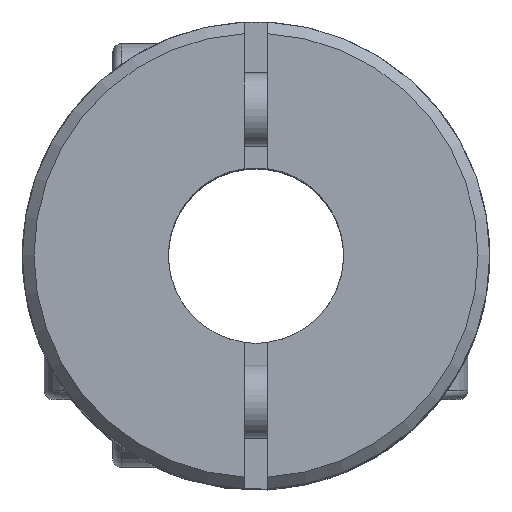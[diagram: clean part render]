
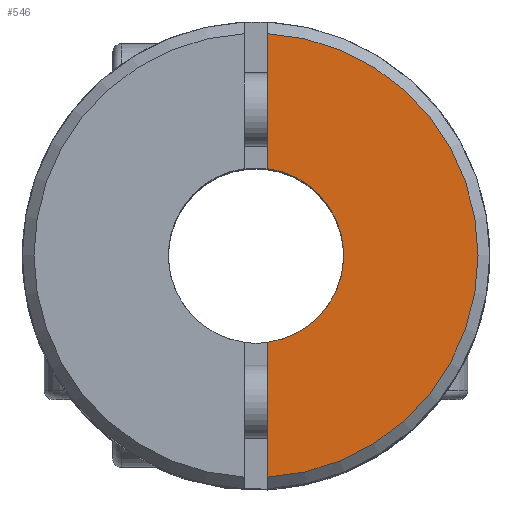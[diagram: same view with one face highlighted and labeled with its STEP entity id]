
A CAD part, top view. The second image highlights one B-rep face of the part: STEP entity #546.
In plain terms, the highlighted planar face has unit normal (0, 0, 1).
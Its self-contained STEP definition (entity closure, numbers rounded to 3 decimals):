
#83 = DIRECTION ( 'NONE',  ( 0., -1., 0. ) ) ;
#209 = EDGE_CURVE ( 'NONE', #4314, #437, #1465, .T. ) ;
#366 = LINE ( 'NONE', #3836, #2460 ) ;
#437 = VERTEX_POINT ( 'NONE', #4379 ) ;
#443 = ORIENTED_EDGE ( 'NONE', *, *, #3437, .T. ) ;
#479 = DIRECTION ( 'NONE',  ( 0., 0., 1. ) ) ;
#521 = EDGE_CURVE ( 'NONE', #2496, #4314, #1246, .T. ) ;
#546 = ADVANCED_FACE ( 'NONE', ( #3711 ), #2263, .F. ) ;
#622 = DIRECTION ( 'NONE',  ( 0., 0., -1. ) ) ;
#803 = CARTESIAN_POINT ( 'NONE',  ( 0., 0., 11.5 ) ) ;
#849 = ORIENTED_EDGE ( 'NONE', *, *, #209, .T. ) ;
#968 = VERTEX_POINT ( 'NONE', #2520 ) ;
#1246 = LINE ( 'NONE', #1298, #4329 ) ;
#1252 = EDGE_LOOP ( 'NONE', ( #2627, #849, #443, #1498 ) ) ;
#1298 = CARTESIAN_POINT ( 'NONE',  ( 0.4, 15., 11.5 ) ) ;
#1415 = AXIS2_PLACEMENT_3D ( 'NONE', #803, #479, #83 ) ;
#1465 = CIRCLE ( 'NONE', #2434, 7.6 ) ;
#1498 = ORIENTED_EDGE ( 'NONE', *, *, #3169, .F. ) ;
#1536 = AXIS2_PLACEMENT_3D ( 'NONE', #2017, #622, #3652 ) ;
#2017 = CARTESIAN_POINT ( 'NONE',  ( 0., 3., 11.5 ) ) ;
#2263 = PLANE ( 'NONE',  #1536 ) ;
#2434 = AXIS2_PLACEMENT_3D ( 'NONE', #4176, #2822, #3140 ) ;
#2460 = VECTOR ( 'NONE', #3187, 1000. ) ;
#2496 = VERTEX_POINT ( 'NONE', #2630 ) ;
#2520 = CARTESIAN_POINT ( 'NONE',  ( 0.4, 2.973, 11.5 ) ) ;
#2527 = CIRCLE ( 'NONE', #1415, 3. ) ;
#2627 = ORIENTED_EDGE ( 'NONE', *, *, #521, .T. ) ;
#2630 = CARTESIAN_POINT ( 'NONE',  ( 0.4, -2.973, 11.5 ) ) ;
#2659 = DIRECTION ( 'NONE',  ( 0., -1., 0. ) ) ;
#2822 = DIRECTION ( 'NONE',  ( 0., 0., 1. ) ) ;
#3140 = DIRECTION ( 'NONE',  ( 0., 1., 0. ) ) ;
#3169 = EDGE_CURVE ( 'NONE', #2496, #968, #2527, .T. ) ;
#3187 = DIRECTION ( 'NONE',  ( 0., -1., 0. ) ) ;
#3437 = EDGE_CURVE ( 'NONE', #437, #968, #366, .T. ) ;
#3652 = DIRECTION ( 'NONE',  ( 0., 1., 0. ) ) ;
#3711 = FACE_OUTER_BOUND ( 'NONE', #1252, .T. ) ;
#3836 = CARTESIAN_POINT ( 'NONE',  ( 0.4, 15., 11.5 ) ) ;
#3948 = CARTESIAN_POINT ( 'NONE',  ( 0.4, -7.589, 11.5 ) ) ;
#4176 = CARTESIAN_POINT ( 'NONE',  ( 0., 0., 11.5 ) ) ;
#4314 = VERTEX_POINT ( 'NONE', #3948 ) ;
#4329 = VECTOR ( 'NONE', #2659, 1000. ) ;
#4379 = CARTESIAN_POINT ( 'NONE',  ( 0.4, 7.589, 11.5 ) ) ;
